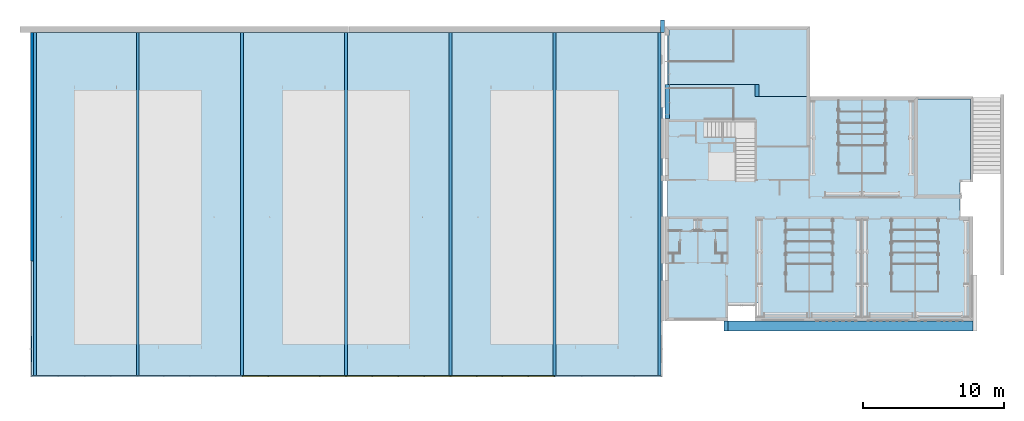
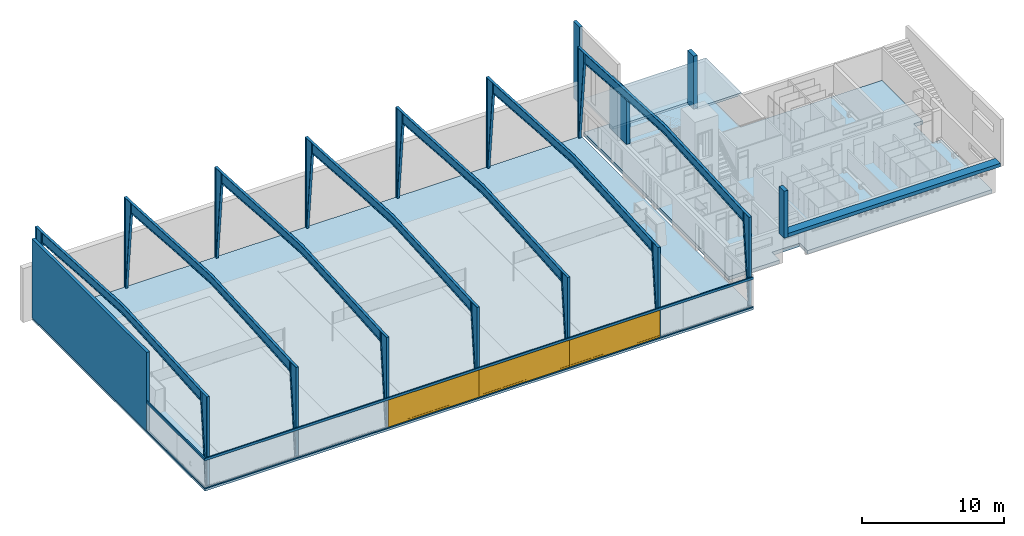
# One storey, part 1 of 45: 8 beams, 4 columns, 3 slabs, 3 walls, 3 windows, 8 openings.
"""IFC2X3 building model written with IfcOpenShell, lengths in metres."""

from ifc_helpers import new_model, entity, si_unit, converted_unit, money_unit, direction, frame, frame_2d, origin_with_axes, origin_2d_with_axis, place, context, subcontext, project, spatial, polyline, rectangle, outline, extrude, faceted_brep, source, transform, mapped, material, layer, layer_set, layer_usage, type_object, element, fill, save


model = new_model("IFC2X3")

# Units and contexts
model_context = context("Model", 3, precision=1e-05, world=origin_with_axes(), true_north=direction((0.0, 1.0)))
body_context = subcontext(model_context, "Body", "Model", "MODEL_VIEW")
ifc_project = project(units=[si_unit("LENGTHUNIT", "METRE"), si_unit("AREAUNIT", "SQUARE_METRE"), si_unit("VOLUMEUNIT", "CUBIC_METRE"), converted_unit("PLANEANGLEUNIT", "DEGREE", entity("IfcPlaneAngleMeasure", 0.0174532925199), si_unit("PLANEANGLEUNIT", "RADIAN"), dimensions=[0, 0, 0, 0, 0, 0, 0]), si_unit("SOLIDANGLEUNIT", "STERADIAN"), money_unit("EUR"), converted_unit("TIMEUNIT", "Year", entity("IfcTimeMeasure", 31556926.0), si_unit("TIMEUNIT", "SECOND"), dimensions=[0, 0, 0, 0, 0, 0, 0]), si_unit("MASSUNIT", "GRAM"), si_unit("THERMODYNAMICTEMPERATUREUNIT", "DEGREE_CELSIUS"), si_unit("LUMINOUSINTENSITYUNIT", "LUMEN")], contexts=[model_context])

# Site, building, storey
site_placement = place(None, origin_with_axes())
site = spatial("IfcSite", under=ifc_project, at=site_placement, Name="Site", CompositionType="ELEMENT")
building_placement = place(site_placement, origin_with_axes())
building = spatial("IfcBuilding", under=site, at=building_placement, Name="Bâtiment", CompositionType="ELEMENT")
storey_placement = place(building_placement, origin_with_axes())
storey = spatial("IfcBuildingStorey", under=building, at=storey_placement, Name="NIVEAU BAS GYMNASE", CompositionType="ELEMENT", Elevation=0.0)

# Columns
ifc_material_1 = material(Name="Hachure solide (2) 2212012751")
column_type_1 = type_object("IfcColumnType", Name="Hachure solide (2) 2212012751 300 x 870", PredefinedType="NOTDEFINED")
column_1_placement = place(storey_placement, frame((51.988457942, 22.193815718, 2.75), z_axis=(0.0, 0.0, 1.0), x_axis=(1.0, 0.0, 0.0)))
element("IfcColumn", 1, at=column_1_placement, inside=storey, type_object=column_type_1, material=ifc_material_1, Name="Pilier-001", ObjectType="Hachure solide (2) 2212012751 300 x 870", context=body_context, shape_type="SweptSolid", body=[
    extrude(rectangle(XDim=0.3, YDim=0.87, at=origin_2d_with_axis()), origin_with_axes(), (0.0, 0.0, 1.0), 4.55),
])
ifc_material_2 = material(Name="Béton 2199952591")
column_type_2 = type_object("IfcColumnType", Name="Béton 2199952591 300 x 700", PredefinedType="NOTDEFINED")
column_2_placement = place(storey_placement, frame((49.788457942, 5.51881571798, 2.45), z_axis=(0.0, 0.0, 1.0), x_axis=(1.0, 0.0, 0.0)))
element("IfcColumn", 2, at=column_2_placement, inside=storey, type_object=column_type_2, material=ifc_material_2, Name="Pilier-001", ObjectType="Béton 2199952591 300 x 700", context=body_context, shape_type="SweptSolid", body=[
    extrude(rectangle(XDim=0.3, YDim=0.7, at=origin_2d_with_axis()), origin_with_axes(), (0.0, 0.0, 1.0), 4.05),
])
ifc_material_3 = material(Name="Hachure solide (2) 1078492233")
column_type_3 = type_object("IfcColumnType", Name="Hachure solide (2) 1078492233 250 x 900", PredefinedType="NOTDEFINED")
column_3_placement = place(storey_placement, frame((45.293457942, 26.7391158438, 2.75), z_axis=(0.0, 0.0, 1.0), x_axis=(1.0, 0.0, 0.0)))
element("IfcColumn", 3, at=column_3_placement, inside=storey, type_object=column_type_3, material=ifc_material_3, Name="Pilier-001", ObjectType="Hachure solide (2) 1078492233 250 x 900", context=body_context, shape_type="SweptSolid", body=[
    extrude(rectangle(XDim=0.25, YDim=0.9, at=origin_2d_with_axis()), origin_with_axes(), (0.0, 0.0, 1.0), 6.63885386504),
])
ifc_material_4 = material(Name="Hachure solide (2) 2212012855")
column_type_4 = type_object("IfcColumnType", Name="Hachure solide (2) 2212012855 300 x 2400", PredefinedType="NOTDEFINED")
column_4_placement = place(storey_placement, frame((45.628457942, 21.428815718, 2.85), z_axis=(0.0, 0.0, 1.0), x_axis=(1.0, 0.0, 0.0)))
element("IfcColumn", 4, at=column_4_placement, inside=storey, type_object=column_type_4, material=ifc_material_4, Name="Pilier-001", ObjectType="Hachure solide (2) 2212012855 300 x 2400", context=body_context, shape_type="SweptSolid", body=[
    extrude(rectangle(XDim=0.3, YDim=2.4, at=origin_2d_with_axis()), origin_with_axes(), (0.0, 0.0, 1.0), 4.45),
])

# Beams
ifc_material_5 = material(Name="Sans Trame")
beam_type_1 = type_object("IfcBeamType", Name="Pente double 10", PredefinedType="NOTDEFINED")
shared_shape_1 = source(origin_with_axes(), body_context, "Body", "Brep", [
    faceted_brep([(24.235, -0.0125, 0.0), (24.235, -0.1, 0.0), (24.235, -0.1, 6.9), (24.235, -0.0125, 6.9), (24.082625, -0.0125, 0.0), (24.082625, -0.1, 0.0), (24.057497, -0.1, 0.0), (24.057497, 0.1, 0.0), (24.082625, 0.1, 0.0), (24.082625, 0.0125, 0.0), (24.235, 0.0125, 0.0), (24.235, 0.1, 0.0), (24.26, 0.1, 0.0), (24.26, -0.1, 0.0), (24.26, -0.1, 6.9), (24.235, 0.0125, 6.9), (23.385127, 0.0125, 6.9), (23.385127, 0.1, 6.9), (23.36, 0.1, 6.9), (23.36, -0.1, 6.9), (23.385127, -0.1, 6.9), (23.385127, -0.0125, 6.9), (24.26, 0.1, 6.9), (24.235, 0.1, 6.9)], [[[0, 1, 2, 3]], [[0, 4, 5, 6, 7, 8, 9, 10, 11, 12, 13, 1]], [[14, 2, 1, 13]], [[15, 16, 17, 18, 19, 20, 21, 3, 2, 14, 22, 23]], [[3, 21, 4, 0]], [[21, 20, 5, 4]], [[5, 20, 19, 6]], [[6, 19, 18, 7]], [[18, 17, 8, 7]], [[9, 8, 17, 16]], [[10, 9, 16, 15]], [[15, 23, 11, 10]], [[11, 23, 22, 12]], [[14, 13, 12, 22]]]),
    faceted_brep([(24.235, 0.0125, 6.9), (24.235, 0.0125, 7.760227), (24.235, 0.1, 7.760227), (24.235, 0.1, 6.9), (23.385, 0.0125, 7.774574), (23.385, 0.0125, 6.9), (23.385, 0.1, 7.774574), (23.385, 0.1, 6.9), (23.36, 0.1, 6.9), (23.36, 0.1, 7.8), (24.26, 0.1, 7.784809), (24.26, 0.1, 6.9), (24.26, -0.1, 6.9), (24.235, -0.1, 6.9), (24.235, -0.0125, 6.9), (23.385, -0.0125, 6.9), (23.385, -0.1, 6.9), (23.36, -0.1, 6.9), (23.36, -0.1, 7.8), (24.26, -0.1, 7.784809), (23.385, -0.1, 7.774574), (24.235, -0.1, 7.760227), (24.235, -0.0125, 7.760227), (23.385, -0.0125, 7.774574)], [[[0, 1, 2, 3]], [[4, 1, 0, 5]], [[1, 4, 6, 2]], [[6, 7, 8, 9, 10, 11, 3, 2]], [[0, 3, 11, 12, 13, 14, 15, 16, 17, 8, 7, 5]], [[4, 5, 7, 6]], [[18, 9, 8, 17]], [[9, 18, 19, 10]], [[12, 11, 10, 19]], [[19, 18, 17, 16, 20, 21, 13, 12]], [[22, 14, 13, 21]], [[14, 22, 23, 15]], [[15, 23, 20, 16]], [[23, 22, 21, 20]]]),
    faceted_brep([(0.025, -0.0125, 0.0), (0.025, -0.0125, 6.9), (0.025, -0.1, 6.9), (0.025, -0.1, 0.0), (0.177375, -0.0125, 0.0), (0.874873, -0.0125, 6.9), (0.025, 0.0125, 6.9), (0.025, 0.1, 6.9), (0.0, 0.1, 6.9), (0.0, -0.1, 6.9), (0.874873, -0.1, 6.9), (0.9, -0.1, 6.9), (0.9, 0.1, 6.9), (0.874873, 0.1, 6.9), (0.874873, 0.0125, 6.9), (0.0, -0.1, 0.0), (0.0, 0.1, 0.0), (0.025, 0.1, 0.0), (0.025, 0.0125, 0.0), (0.177375, 0.0125, 0.0), (0.177375, 0.1, 0.0), (0.202503, 0.1, 0.0), (0.202503, -0.1, 0.0), (0.177375, -0.1, 0.0)], [[[0, 1, 2, 3]], [[1, 0, 4, 5]], [[6, 7, 8, 9, 2, 1, 5, 10, 11, 12, 13, 14]], [[9, 15, 3, 2]], [[0, 3, 15, 16, 17, 18, 19, 20, 21, 22, 23, 4]], [[5, 4, 23, 10]], [[6, 18, 17, 7]], [[17, 16, 8, 7]], [[9, 8, 16, 15]], [[23, 22, 11, 10]], [[22, 21, 12, 11]], [[12, 21, 20, 13]], [[19, 14, 13, 20]], [[18, 6, 14, 19]]]),
    faceted_brep([(0.025, 0.0125, 6.9), (0.025, 0.1, 6.9), (0.025, 0.1, 7.760227), (0.025, 0.0125, 7.760227), (0.875, 0.0125, 6.9), (0.875, 0.1, 6.9), (0.9, 0.1, 6.9), (0.9, -0.1, 6.9), (0.875, -0.1, 6.9), (0.875, -0.0125, 6.9), (0.025, -0.0125, 6.9), (0.025, -0.1, 6.9), (0.0, -0.1, 6.9), (0.0, 0.1, 6.9), (0.875, 0.1, 7.774574), (0.0, 0.1, 7.784809), (0.9, 0.1, 7.8), (0.875, 0.0125, 7.774574), (0.9, -0.1, 7.8), (0.0, -0.1, 7.784809), (0.025, -0.1, 7.760227), (0.875, -0.1, 7.774574), (0.875, -0.0125, 7.774574), (0.025, -0.0125, 7.760227)], [[[0, 1, 2, 3]], [[0, 4, 5, 6, 7, 8, 9, 10, 11, 12, 13, 1]], [[14, 2, 1, 13, 15, 16, 6, 5]], [[3, 2, 14, 17]], [[17, 4, 0, 3]], [[17, 14, 5, 4]], [[18, 7, 6, 16]], [[19, 12, 11, 20, 21, 8, 7, 18]], [[9, 8, 21, 22]], [[10, 9, 22, 23]], [[23, 20, 11, 10]], [[12, 19, 15, 13]], [[16, 15, 19, 18]], [[22, 21, 20, 23]]]),
    faceted_brep([(23.36, -0.0125, 7.774967), (23.36, -0.1, 7.774967), (17.505163, -0.1, 8.077692), (17.505163, -0.0125, 8.077692), (23.36, -0.0125, 6.925074), (23.36, -0.1, 6.925074), (23.36, -0.1, 6.9), (23.36, 0.1, 6.9), (23.36, 0.1, 6.925074), (23.36, 0.0125, 6.925074), (23.36, 0.0125, 7.774967), (23.36, 0.1, 7.774967), (23.36, 0.1, 7.8), (23.36, -0.1, 7.8), (17.506454, -0.1, 8.102659), (17.505163, 0.0125, 8.077692), (17.467727, 0.0125, 7.353659), (17.467727, -0.0125, 7.353659), (17.506454, 0.1, 8.102659), (17.505163, 0.1, 8.077692), (17.469451, -0.0125, 7.378601), (17.469451, -0.1, 7.378601), (17.467727, -0.1, 7.353659), (17.467727, 0.1, 7.353659), (17.469451, 0.1, 7.378601), (17.469451, 0.0125, 7.378601)], [[[0, 1, 2, 3]], [[0, 4, 5, 6, 7, 8, 9, 10, 11, 12, 13, 1]], [[14, 2, 1, 13]], [[15, 16, 17, 3, 2, 14, 18, 19]], [[3, 17, 20, 4, 0]], [[20, 21, 5, 4]], [[5, 21, 22, 6]], [[16, 23, 7, 6, 22, 17]], [[23, 24, 8, 7]], [[9, 8, 24, 25]], [[10, 9, 25, 16, 15]], [[15, 19, 11, 10]], [[11, 19, 18, 12]], [[14, 13, 12, 18]], [[17, 22, 21, 20]], [[25, 24, 23, 16]]]),
    faceted_brep([(17.505163, -0.0125, 8.077692), (17.505163, -0.1, 8.077692), (12.13, -0.1, 8.355616), (12.13, -0.0125, 8.355616), (17.469018, -0.0125, 7.378627), (17.469018, 0.0125, 7.378627), (17.505163, 0.0125, 8.077692), (17.505163, 0.1, 8.077692), (17.506454, 0.1, 8.102659), (17.506454, -0.1, 8.102659), (12.13, -0.1, 8.38065), (12.13, 0.0125, 8.355616), (12.13, 0.0125, 7.705697), (12.13, 0.1, 7.705697), (12.13, 0.1, 7.68065), (12.13, -0.1, 7.68065), (12.13, -0.1, 7.705697), (12.13, -0.0125, 7.705697), (12.13, 0.1, 8.38065), (12.13, 0.1, 8.355616), (17.469451, -0.1, 7.378601), (17.469451, 0.1, 7.378601), (17.467727, 0.1, 7.353659), (17.467727, -0.1, 7.353659)], [[[0, 1, 2, 3]], [[0, 4, 5, 6, 7, 8, 9, 1]], [[10, 2, 1, 9]], [[11, 12, 13, 14, 15, 16, 17, 3, 2, 10, 18, 19]], [[3, 17, 4, 0]], [[4, 17, 16, 20, 21, 13, 12, 5]], [[6, 5, 12, 11]], [[11, 19, 7, 6]], [[7, 19, 18, 8]], [[10, 9, 8, 18]], [[14, 13, 21, 22]], [[23, 15, 14, 22]], [[20, 16, 15, 23]], [[20, 23, 22, 21]]]),
    faceted_brep([(0.9, -0.0125, 7.774967), (6.754837, -0.0125, 8.077692), (6.754837, -0.1, 8.077692), (0.9, -0.1, 7.774967), (0.9, -0.0125, 6.925074), (6.790549, -0.0125, 7.378601), (6.792273, -0.0125, 7.353659), (6.754837, 0.0125, 8.077692), (6.754837, 0.1, 8.077692), (6.753546, 0.1, 8.102659), (6.753546, -0.1, 8.102659), (6.792273, 0.0125, 7.353659), (0.9, -0.1, 7.8), (0.9, 0.1, 7.8), (0.9, 0.1, 7.774967), (0.9, 0.0125, 7.774967), (0.9, 0.0125, 6.925074), (0.9, 0.1, 6.925074), (0.9, 0.1, 6.9), (0.9, -0.1, 6.9), (0.9, -0.1, 6.925074), (6.790549, -0.1, 7.378601), (6.792273, -0.1, 7.353659), (6.792273, 0.1, 7.353659), (6.790549, 0.0125, 7.378601), (6.790549, 0.1, 7.378601)], [[[0, 1, 2, 3]], [[1, 0, 4, 5, 6]], [[7, 8, 9, 10, 2, 1, 6, 11]], [[10, 12, 3, 2]], [[0, 3, 12, 13, 14, 15, 16, 17, 18, 19, 20, 4]], [[5, 4, 20, 21]], [[6, 5, 21, 22]], [[7, 15, 14, 8]], [[14, 13, 9, 8]], [[10, 9, 13, 12]], [[11, 6, 22, 19, 18, 23]], [[15, 7, 11, 24, 16]], [[16, 24, 25, 17]], [[23, 18, 17, 25]], [[20, 19, 22, 21]], [[24, 11, 23, 25]]]),
    faceted_brep([(6.754837, -0.0125, 8.077692), (12.13, -0.0125, 8.355616), (12.13, -0.1, 8.355616), (6.754837, -0.1, 8.077692), (6.790982, -0.0125, 7.378627), (12.13, -0.0125, 7.705697), (12.13, 0.0125, 8.355616), (12.13, 0.1, 8.355616), (12.13, 0.1, 8.38065), (12.13, -0.1, 8.38065), (12.13, -0.1, 7.705697), (12.13, -0.1, 7.68065), (12.13, 0.1, 7.68065), (12.13, 0.1, 7.705697), (12.13, 0.0125, 7.705697), (6.753546, -0.1, 8.102659), (6.753546, 0.1, 8.102659), (6.754837, 0.1, 8.077692), (6.754837, 0.0125, 8.077692), (6.790982, 0.0125, 7.378627), (6.790549, 0.1, 7.378601), (6.790549, -0.1, 7.378601), (6.792273, -0.1, 7.353659), (6.792273, 0.1, 7.353659)], [[[0, 1, 2, 3]], [[1, 0, 4, 5]], [[6, 7, 8, 9, 2, 1, 5, 10, 11, 12, 13, 14]], [[9, 15, 3, 2]], [[0, 3, 15, 16, 17, 18, 19, 4]], [[4, 19, 14, 13, 20, 21, 10, 5]], [[6, 18, 17, 7]], [[17, 16, 8, 7]], [[9, 8, 16, 15]], [[21, 22, 11, 10]], [[22, 23, 12, 11]], [[12, 23, 20, 13]], [[18, 6, 14, 19]], [[21, 20, 23, 22]]]),
])
for number, where, z_axis, x_axis, name in (
    (5, (22.8986185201, 2.02911584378, 0.0), (0.0, 0.0, 1.0), (0.0, 1.0, 0.0), "MOB-0004"),
    (6, (15.5219518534, 2.02911584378, 0.0), (0.0, 0.0, 1.0), (0.0, 1.0, 0.0), "MOB-0004"),
    (7, (8.14528518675, 2.02911584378, 0.0), (0.0, 0.0, 1.0), (0.0, 1.0, 0.0), "MOB-0004"),
    (8, (30.2752851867, 2.02911584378, 0.0), (0.0, 0.0, 1.0), (0.0, 1.0, 0.0), "MOB-0004"),
    (9, (37.6519518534, 2.02911584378, 0.0), (0.0, 0.0, 1.0), (0.0, 1.0, 0.0), "MOB-0004"),
    (10, (45.078457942, 2.02911584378, 0.0), (0.0, 0.0, 1.0), (0.0, 1.0, 0.0), "MOB-0004"),
    (11, (0.878618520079, 2.02911584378, 0.0), (0.0, 0.0, 1.0), (0.0, 1.0, 0.0), "MOB-0004"),
):
    element("IfcBeam", number, at=place(storey_placement, frame(where, z_axis=z_axis, x_axis=x_axis)), inside=storey, type_object=beam_type_1, material=ifc_material_5, Name=name, ObjectType="Pente double 10", context=body_context, shape_type="MappedRepresentation", body=[
        mapped(shared_shape_1, transform((0.0, 0.0, 0.0))),
    ])
ifc_material_6 = material(Name="Hachure solide 2670559909")
beam_type_2 = type_object("IfcBeamType", Name="Hachure solide 2670559909 700 x 300", PredefinedType="NOTDEFINED")
beam_placement = place(storey_placement, frame((67.258457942, 5.51881571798, 2.75), z_axis=(0.0, 0.0, 1.0), x_axis=(0.0, 1.0, 0.0)))
element("IfcBeam", 12, at=beam_placement, inside=storey, type_object=beam_type_2, material=ifc_material_6, Name="Pou-002", ObjectType="Hachure solide 2670559909 700 x 300", context=body_context, shape_type="SweptSolid", body=[
    extrude(rectangle(XDim=0.3, YDim=0.7, at=frame_2d((-0.15, 0.0), x_axis=(1.0, 0.0))), frame((0.0, 0.0, 0.0), z_axis=(0.0, 1.0, 0.0), x_axis=(0.0, 0.0, 1.0)), (0.0, 0.0, 1.0), 17.32),
])

# Slabs
ifc_material_7 = material(Name="Hachure solide* 2593434267")
ifc_layer_1 = layer(ifc_material_7, 0.2, ventilated="UNKNOWN")
ifc_layer_set_1 = layer_set([ifc_layer_1], Name="Hachure solide* 2593434267 0.2")
ifc_layer_usage_1 = layer_usage(ifc_layer_set_1, "AXIS3", "NEGATIVE", 0.2)
slab_type_1 = type_object("IfcSlabType", Name="Hachure solide* 2593434267 200", PredefinedType="FLOOR")
slab_1_placement = place(storey_placement, frame((45.758457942, 26.7391158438, 2.8), z_axis=(0.0, 0.0, 1.0), x_axis=(1.0, 0.0, 0.0)))
element("IfcSlab", 13, at=slab_1_placement, inside=storey, type_object=slab_type_1, material=ifc_layer_usage_1, Name="Dalle-002", PredefinedType="FLOOR", context=body_context, shape_type="SweptSolid", body=[
    extrude(outline(polyline([(0.0, 0.0), (0.0, -4.1103001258), (6.38, -4.1103001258), (6.38, -4.9803001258), (9.975, -4.9803001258), (9.975, 0.0), (0.0, 0.0)])), frame((0.0, 0.0, -0.2), z_axis=(0.0, 0.0, 1.0), x_axis=(1.0, 0.0, 0.0)), (0.0, 0.0, 1.0), 0.2),
])
ifc_layer_usage_2 = layer_usage(ifc_layer_set_1, "AXIS3", "NEGATIVE", 0.2)
slab_2_placement = place(storey_placement, frame((0.558457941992, 26.2891158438, 0.0), z_axis=(0.0, 0.0, 1.0), x_axis=(1.0, 0.0, 0.0)))
element("IfcSlab", 14, at=slab_2_placement, inside=storey, type_object=slab_type_1, material=ifc_layer_usage_2, Name="Dalle-001", PredefinedType="FLOOR", context=body_context, shape_type="SweptSolid", body=[
    extrude(outline(polyline([(0.0, 0.0), (0.0, -24.36), (44.72, -24.36), (44.72, 0.0), (0.0, 0.0)])), frame((0.0, 0.0, -0.2), z_axis=(0.0, 0.0, 1.0), x_axis=(1.0, 0.0, 0.0)), (0.0, 0.0, 1.0), 0.2),
])
ifc_layer_2 = layer(ifc_material_7, 0.3, ventilated="UNKNOWN")
ifc_layer_set_2 = layer_set([ifc_layer_2], Name="Hachure solide* 2593434267 0.3")
ifc_layer_usage_3 = layer_usage(ifc_layer_set_2, "AXIS3", "NEGATIVE", 0.3)
slab_type_2 = type_object("IfcSlabType", Name="Hachure solide* 2593434267 300", PredefinedType="FLOOR")
slab_3_placement = place(storey_placement, frame((45.6608632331, 26.5791158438, 0.0), z_axis=(0.0, 0.0, 1.0), x_axis=(1.0, 0.0, 0.0)))
element("IfcSlab", 15, at=slab_3_placement, inside=storey, type_object=slab_type_2, material=ifc_layer_usage_3, Name="Dalle-002", PredefinedType="FLOOR", context=body_context, shape_type="SweptSolid", body=[
    extrude(outline(polyline([(0.0, 0.0), (0.0, -20.5278948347), (4.11759470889, -20.5278948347), (4.11759470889, -19.4378948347), (6.38240529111, -19.4378948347), (6.38240529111, -20.5278948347), (21.4375947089, -20.5278948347), (21.4375947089, -13.4052123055), (20.6896411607, -13.4052123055), (20.6896411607, -10.7553879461), (21.4375947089, -10.7553879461), (21.4375947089, -4.9803001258), (9.9125947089, -4.9803001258), (9.9125947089, 0.0), (0.0, 0.0)])), frame((0.0, 0.0, -0.3), z_axis=(0.0, 0.0, 1.0), x_axis=(1.0, 0.0, 0.0)), (0.0, 0.0, 1.0), 0.3),
])

# Wall, openings, windows
ifc_material_8 = material(Name="Acier 2556372607")
ifc_layer_3 = layer(ifc_material_8, 0.1, ventilated="UNKNOWN")
ifc_layer_set_3 = layer_set([ifc_layer_3], Name="Acier 2556372607 0.1")
ifc_layer_usage_4 = layer_usage(ifc_layer_set_3, "AXIS2", "POSITIVE", 0.0)
wall_type_1 = type_object("IfcWallType", Name="Acier 2556372607 100", PredefinedType="NOTDEFINED")
wall_1_placement = place(storey_placement, frame((0.538618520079, 1.92911584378, 0.0), z_axis=(0.0, 0.0, 1.0), x_axis=(1.0, 0.0, 0.0)))
wall_1 = element("IfcWallStandardCase", 16, at=wall_1_placement, inside=storey, type_object=wall_type_1, material=ifc_layer_usage_4, Name="Mur-002", context=body_context, shape_type="SweptSolid", body=[
    extrude(outline(polyline([(0.0, 0.0), (44.7398394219, 0.0), (44.6398394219, 0.1), (0.1, 0.1), (0.0, 0.0)])), origin_with_axes(), (0.0, 0.0, 1.0), 2.62),
])
opening_1_placement = place(wall_1_placement, frame((18.6716666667, 0.0, 0.1), z_axis=(0.0, 0.0, 1.0), x_axis=(1.0, 0.0, 0.0)))
opening_1 = element("IfcOpeningElement", 17, at=opening_1_placement, cuts=wall_1, Name="Fen-022", context=body_context, shape_type="SweptSolid", body=[
    extrude(outline(polyline([(3.688333, -2.32), (3.688333, 0.0), (-3.688333, 0.0), (-3.688333, -2.32), (3.688333, -2.32)])), frame((0.0, 0.0, 0.0), z_axis=(0.0, -1.0, 0.0), x_axis=(-1.0, 0.0, 0.0)), (0.0, 0.0, 1.0), 0.1),
    extrude(outline(polyline([(3.688333, 0.0), (3.688333, 2.32), (-3.688333, 2.32), (-3.688333, 0.0), (3.688333, 0.0)])), frame((0.0, 0.0, 0.0), z_axis=(0.0, 1.0, 0.0), x_axis=(-1.0, 0.0, 0.0)), (0.0, 0.0, 1.0), 0.1),
])
opening_2_placement = place(wall_1_placement, frame((26.0483333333, 0.0, 0.1), z_axis=(0.0, 0.0, 1.0), x_axis=(1.0, 0.0, 0.0)))
opening_2 = element("IfcOpeningElement", 18, at=opening_2_placement, cuts=wall_1, Name="Fen-022", context=body_context, shape_type="SweptSolid", body=[
    extrude(outline(polyline([(3.688333, -2.32), (3.688333, 0.0), (-3.688333, 0.0), (-3.688333, -2.32), (3.688333, -2.32)])), frame((0.0, 0.0, 0.0), z_axis=(0.0, -1.0, 0.0), x_axis=(-1.0, 0.0, 0.0)), (0.0, 0.0, 1.0), 0.1),
    extrude(outline(polyline([(3.688333, 0.0), (3.688333, 2.32), (-3.688333, 2.32), (-3.688333, 0.0), (3.688333, 0.0)])), frame((0.0, 0.0, 0.0), z_axis=(0.0, 1.0, 0.0), x_axis=(-1.0, 0.0, 0.0)), (0.0, 0.0, 1.0), 0.1),
])
opening_3_placement = place(wall_1_placement, frame((33.425, 0.0, 0.1), z_axis=(0.0, 0.0, 1.0), x_axis=(1.0, 0.0, 0.0)))
opening_3 = element("IfcOpeningElement", 19, at=opening_3_placement, cuts=wall_1, Name="Fen-023", context=body_context, shape_type="SweptSolid", body=[
    extrude(outline(polyline([(3.688333, -2.32), (3.688333, 0.0), (-3.688333, 0.0), (-3.688333, -2.32), (3.688333, -2.32)])), frame((0.0, 0.0, 0.0), z_axis=(0.0, -1.0, 0.0), x_axis=(-1.0, 0.0, 0.0)), (0.0, 0.0, 1.0), 0.1),
    extrude(outline(polyline([(3.688333, 0.0), (3.688333, 2.32), (-3.688333, 2.32), (-3.688333, 0.0), (3.688333, 0.0)])), frame((0.0, 0.0, 0.0), z_axis=(0.0, 1.0, 0.0), x_axis=(-1.0, 0.0, 0.0)), (0.0, 0.0, 1.0), 0.1),
])
opening_4_placement = place(wall_1_placement, frame((11.295, 0.0, 0.1), z_axis=(0.0, 0.0, 1.0), x_axis=(1.0, 0.0, 0.0)))
element("IfcOpeningElement", 20, at=opening_4_placement, cuts=wall_1, Name="Fen-022", context=body_context, shape_type="SweptSolid", body=[
    extrude(outline(polyline([(3.688333, -2.32), (3.688333, 0.0), (-3.688333, 0.0), (-3.688333, -2.32), (3.688333, -2.32)])), frame((0.0, 0.0, 0.0), z_axis=(0.0, -1.0, 0.0), x_axis=(-1.0, 0.0, 0.0)), (0.0, 0.0, 1.0), 0.1),
    extrude(outline(polyline([(3.688333, 0.0), (3.688333, 2.32), (-3.688333, 2.32), (-3.688333, 0.0), (3.688333, 0.0)])), frame((0.0, 0.0, 0.0), z_axis=(0.0, 1.0, 0.0), x_axis=(-1.0, 0.0, 0.0)), (0.0, 0.0, 1.0), 0.1),
])
opening_5_placement = place(wall_1_placement, frame((3.80333333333, 0.0, 0.1), z_axis=(0.0, 0.0, 1.0), x_axis=(1.0, 0.0, 0.0)))
element("IfcOpeningElement", 21, at=opening_5_placement, cuts=wall_1, Name="Fen-023", context=body_context, shape_type="SweptSolid", body=[
    extrude(outline(polyline([(3.803333, -2.32), (3.803333, 0.0), (-3.803333, 0.0), (-3.803333, -2.32), (3.803333, -2.32)])), frame((0.0, 0.0, 0.0), z_axis=(0.0, -1.0, 0.0), x_axis=(-1.0, 0.0, 0.0)), (0.0, 0.0, 1.0), 0.1),
    extrude(outline(polyline([(3.803333, 0.0), (3.803333, 2.32), (-3.803333, 2.32), (-3.803333, 0.0), (3.803333, 0.0)])), frame((0.0, 0.0, 0.0), z_axis=(0.0, 1.0, 0.0), x_axis=(-1.0, 0.0, 0.0)), (0.0, 0.0, 1.0), 0.1),
])
opening_6_placement = place(wall_1_placement, frame((40.9365060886, 0.0, 0.1), z_axis=(0.0, 0.0, 1.0), x_axis=(1.0, 0.0, 0.0)))
element("IfcOpeningElement", 22, at=opening_6_placement, cuts=wall_1, Name="Fen-025", context=body_context, shape_type="SweptSolid", body=[
    extrude(outline(polyline([(3.803333, -2.32), (3.803333, 0.0), (-3.803333, 0.0), (-3.803333, -2.32), (3.803333, -2.32)])), frame((0.0, 0.0, 0.0), z_axis=(0.0, -1.0, 0.0), x_axis=(-1.0, 0.0, 0.0)), (0.0, 0.0, 1.0), 0.1),
    extrude(outline(polyline([(3.803333, 0.0), (3.803333, 2.32), (-3.803333, 2.32), (-3.803333, 0.0), (3.803333, 0.0)])), frame((0.0, 0.0, 0.0), z_axis=(0.0, 1.0, 0.0), x_axis=(-1.0, 0.0, 0.0)), (0.0, 0.0, 1.0), 0.1),
])
window_style = type_object("IfcWindowStyle", Name="F Devanture 3 10", ConstructionType="NOTDEFINED", OperationType="USERDEFINED", ParameterTakesPrecedence=False, Sizeable=False)
shared_shape_2 = source(origin_with_axes(), body_context, "Body", "Brep", [
    faceted_brep([(-3.688333, 0.0, 2.28), (-3.688333, 0.0, 0.15), (-3.688333, -0.08, 0.15), (-3.688333, -0.08, 2.28), (-3.648333, 0.0, 2.28), (-3.648333, 0.0, 0.15), (-3.648333, -0.08, 0.15), (-3.648333, -0.08, 2.28)], [[[0, 1, 2, 3]], [[0, 4, 5, 1]], [[1, 5, 6, 2]], [[3, 2, 6, 7]], [[4, 0, 3, 7]], [[5, 4, 7, 6]]]),
    faceted_brep([(3.688333, 0.0, 0.15), (3.688333, 0.0, 2.28), (3.688333, -0.08, 2.28), (3.688333, -0.08, 0.15), (3.648333, 0.0, 0.15), (3.648333, 0.0, 2.28), (3.648333, -0.08, 2.28), (3.648333, -0.08, 0.15)], [[[0, 1, 2, 3]], [[0, 4, 5, 1]], [[1, 5, 6, 2]], [[3, 2, 6, 7]], [[4, 0, 3, 7]], [[5, 4, 7, 6]]]),
    faceted_brep([(3.688333, 0.0, 2.32), (-3.688333, 0.0, 2.32), (-3.688333, -0.08, 2.32), (3.688333, -0.08, 2.32), (3.688333, 0.0, 2.28), (3.648333, 0.0, 2.28), (-3.648333, 0.0, 2.28), (-3.688333, 0.0, 2.28), (-3.688333, -0.08, 2.28), (-3.648333, -0.08, 2.28), (3.648333, -0.08, 2.28), (3.688333, -0.08, 2.28)], [[[0, 1, 2, 3]], [[0, 4, 5, 6, 7, 1]], [[1, 7, 8, 2]], [[3, 2, 8, 9, 10, 11]], [[4, 0, 3, 11]], [[5, 4, 11, 10]], [[6, 5, 10, 9]], [[7, 6, 9, 8]]]),
    faceted_brep([(3.688333, 0.0, 0.15), (3.648333, 0.0, 0.15), (3.648333, -0.08, 0.15), (3.688333, -0.08, 0.15), (3.688333, 0.0, 0.0), (-3.688333, 0.0, 0.0), (-3.688333, 0.0, 0.15), (-3.648333, 0.0, 0.15), (-3.648333, -0.08, 0.15), (-3.688333, -0.08, 0.15), (-3.688333, -0.08, 0.0), (3.688333, -0.08, 0.0)], [[[0, 1, 2, 3]], [[0, 4, 5, 6, 7, 1]], [[1, 7, 8, 2]], [[3, 2, 8, 9, 10, 11]], [[4, 0, 3, 11]], [[5, 4, 11, 10]], [[6, 5, 10, 9]], [[7, 6, 9, 8]]]),
    faceted_brep([(1.816667, -0.05, 0.15), (1.816667, 0.0, 0.15), (1.846667, 0.0, 0.15), (1.846667, -0.05, 0.15), (1.816667, -0.05, 2.28), (1.816667, 0.0, 2.28), (1.846667, 0.0, 2.28), (1.846667, -0.05, 2.28)], [[[0, 1, 2, 3]], [[4, 5, 1, 0]], [[2, 1, 5, 6]], [[3, 2, 6, 7]], [[4, 0, 3, 7]], [[7, 6, 5, 4]]]),
    faceted_brep([(-1.846667, -0.05, 0.15), (-1.846667, 0.0, 0.15), (-1.816667, 0.0, 0.15), (-1.816667, -0.05, 0.15), (-1.846667, -0.05, 2.28), (-1.846667, 0.0, 2.28), (-1.816667, 0.0, 2.28), (-1.816667, -0.05, 2.28)], [[[0, 1, 2, 3]], [[4, 5, 1, 0]], [[2, 1, 5, 6]], [[3, 2, 6, 7]], [[4, 0, 3, 7]], [[7, 6, 5, 4]]]),
    faceted_brep([(-0.015, -0.05, 0.15), (-0.015, 0.0, 0.15), (0.015, 0.0, 0.15), (0.015, -0.05, 0.15), (-0.015, -0.05, 2.28), (-0.015, 0.0, 2.28), (0.015, 0.0, 2.28), (0.015, -0.05, 2.28)], [[[0, 1, 2, 3]], [[4, 5, 1, 0]], [[2, 1, 5, 6]], [[3, 2, 6, 7]], [[4, 0, 3, 7]], [[7, 6, 5, 4]]]),
    faceted_brep([(-3.648333, -0.01, 0.15), (-1.846667, -0.01, 0.15), (-1.846667, -0.02, 0.15), (-3.648333, -0.02, 0.15), (-3.648333, -0.01, 2.28), (-1.846667, -0.01, 2.28), (-1.846667, -0.02, 2.28), (-3.648333, -0.02, 2.28)], [[[0, 1, 2, 3]], [[0, 4, 5, 1]], [[1, 5, 6, 2]], [[3, 2, 6, 7]], [[4, 0, 3, 7]], [[5, 4, 7, 6]]]),
    faceted_brep([(-1.816667, -0.01, 0.15), (-0.015, -0.01, 0.15), (-0.015, -0.02, 0.15), (-1.816667, -0.02, 0.15), (-1.816667, -0.01, 2.28), (-0.015, -0.01, 2.28), (-0.015, -0.02, 2.28), (-1.816667, -0.02, 2.28)], [[[0, 1, 2, 3]], [[0, 4, 5, 1]], [[1, 5, 6, 2]], [[3, 2, 6, 7]], [[4, 0, 3, 7]], [[5, 4, 7, 6]]]),
    faceted_brep([(0.015, -0.01, 0.15), (1.816667, -0.01, 0.15), (1.816667, -0.02, 0.15), (0.015, -0.02, 0.15), (0.015, -0.01, 2.28), (1.816667, -0.01, 2.28), (1.816667, -0.02, 2.28), (0.015, -0.02, 2.28)], [[[0, 1, 2, 3]], [[0, 4, 5, 1]], [[1, 5, 6, 2]], [[3, 2, 6, 7]], [[4, 0, 3, 7]], [[5, 4, 7, 6]]]),
    faceted_brep([(1.846667, -0.01, 0.15), (3.648333, -0.01, 0.15), (3.648333, -0.02, 0.15), (1.846667, -0.02, 0.15), (1.846667, -0.01, 2.28), (3.648333, -0.01, 2.28), (3.648333, -0.02, 2.28), (1.846667, -0.02, 2.28)], [[[0, 1, 2, 3]], [[0, 4, 5, 1]], [[1, 5, 6, 2]], [[3, 2, 6, 7]], [[4, 0, 3, 7]], [[5, 4, 7, 6]]]),
])
window_1_placement = place(opening_1_placement, frame((3.68833333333, 0.0, 0.0), z_axis=(0.0, 0.0, 1.0), x_axis=(-1.0, 0.0, 0.0)))
window_1 = element("IfcWindow", 23, at=window_1_placement, inside=storey, type_object=window_style, material=ifc_material_5, Name="Fen-022", OverallHeight=2.32, OverallWidth=7.37667, context=body_context, shape_type="MappedRepresentation", body=[
    mapped(shared_shape_2, transform((3.68833333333, 0.0, 0.0))),
])
fill(opening_1, window_1)
window_2_placement = place(opening_2_placement, frame((3.68833333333, 0.0, 0.0), z_axis=(0.0, 0.0, 1.0), x_axis=(-1.0, 0.0, 0.0)))
window_2 = element("IfcWindow", 24, at=window_2_placement, inside=storey, type_object=window_style, material=ifc_material_5, Name="Fen-022", OverallHeight=2.32, OverallWidth=7.37667, context=body_context, shape_type="MappedRepresentation", body=[
    mapped(shared_shape_2, transform((3.68833333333, 0.0, 0.0))),
])
fill(opening_2, window_2)
window_3_placement = place(opening_3_placement, frame((3.68833333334, 0.0, 0.0), z_axis=(0.0, 0.0, 1.0), x_axis=(-1.0, 0.0, 0.0)))
window_3 = element("IfcWindow", 25, at=window_3_placement, inside=storey, type_object=window_style, material=ifc_material_5, Name="Fen-023", OverallHeight=2.32, OverallWidth=7.37667, context=body_context, shape_type="MappedRepresentation", body=[
    mapped(shared_shape_2, transform((3.68833333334, 0.0, 0.0))),
])
fill(opening_3, window_3)

# Wall, openings
ifc_layer_usage_5 = layer_usage(ifc_layer_set_3, "AXIS2", "POSITIVE", -0.1)
wall_2_placement = place(storey_placement, frame((0.538618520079, 1.92911584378, 0.0), z_axis=(0.0, 0.0, 1.0), x_axis=(0.0, 1.0, 0.0)))
wall_2 = element("IfcWallStandardCase", 26, at=wall_2_placement, inside=storey, type_object=wall_type_1, material=ifc_layer_usage_5, Name="Mur-002", context=body_context, shape_type="SweptSolid", body=[
    extrude(outline(polyline([(0.1, -0.1), (8.19666666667, -0.1), (8.19666666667, 0.0), (0.0, 0.0), (0.1, -0.1)])), origin_with_axes(), (0.0, 0.0, 1.0), 2.62),
])
opening_7_placement = place(wall_2_placement, frame((6.06818327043, 0.0, 0.1), z_axis=(0.0, 0.0, 1.0), x_axis=(1.0, 0.0, 0.0)))
element("IfcOpeningElement", 27, at=opening_7_placement, cuts=wall_2, Name="Fen-023", context=body_context, shape_type="SweptSolid", body=[
    extrude(outline(polyline([(-2.128483, 0.0), (-2.128483, -2.32), (2.128483, -2.32), (2.128483, 0.0), (-2.128483, 0.0)])), frame((0.0, 0.0, 0.0), z_axis=(0.0, 1.0, 0.0), x_axis=(1.0, 0.0, 0.0)), (0.0, 0.0, 1.0), 0.1),
    extrude(outline(polyline([(-2.128483, 2.32), (-2.128483, 0.0), (2.128483, 0.0), (2.128483, 2.32), (-2.128483, 2.32)])), frame((0.0, 0.0, 0.0), z_axis=(0.0, -1.0, 0.0), x_axis=(1.0, 0.0, 0.0)), (0.0, 0.0, 1.0), 0.1),
])
opening_8_placement = place(wall_2_placement, frame((1.9698499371, 0.0, 0.1), z_axis=(0.0, 0.0, 1.0), x_axis=(1.0, 0.0, 0.0)))
element("IfcOpeningElement", 28, at=opening_8_placement, cuts=wall_2, Name="Por-022", context=body_context, shape_type="SweptSolid", body=[
    extrude(outline(polyline([(-1.96985, 0.0), (-1.96985, -2.32), (1.96985, -2.32), (1.96985, 0.0), (-1.96985, 0.0)])), frame((0.0, 0.0, 0.0), z_axis=(0.0, 1.0, 0.0), x_axis=(1.0, 0.0, 0.0)), (0.0, 0.0, 1.0), 0.1),
    extrude(outline(polyline([(-1.96985, 2.32), (-1.96985, 0.0), (1.96985, 0.0), (1.96985, 2.32), (-1.96985, 2.32)])), frame((0.0, 0.0, 0.0), z_axis=(0.0, -1.0, 0.0), x_axis=(1.0, 0.0, 0.0)), (0.0, 0.0, 1.0), 0.1),
])

# Wall
ifc_material_9 = material(Name="Hachure solide* 3992800808")
ifc_layer_4 = layer(ifc_material_9, 0.24, ventilated="UNKNOWN")
ifc_layer_set_4 = layer_set([ifc_layer_4], Name="Hachure solide* 3992800808 0.24")
ifc_layer_usage_6 = layer_usage(ifc_layer_set_4, "AXIS2", "POSITIVE", 0.0)
wall_type_2 = type_object("IfcWallType", Name="Hachure solide* 3992800808 240", PredefinedType="NOTDEFINED")
wall_3_placement = place(storey_placement, frame((0.538618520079, 26.2891158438, 0.0), z_axis=(0.0, 0.0, 1.0), x_axis=(0.0, -1.0, 0.0)))
element("IfcWallStandardCase", 29, at=wall_3_placement, inside=storey, type_object=wall_type_2, material=ifc_layer_usage_6, Name="Mur-002", context=body_context, shape_type="SweptSolid", body=[
    extrude(outline(polyline([(0.0, 0.0), (16.1633333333, 0.0), (16.1633333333, 0.24), (0.0, 0.24), (0.0, 0.0)])), origin_with_axes(), (0.0, 0.0, 1.0), 6.8),
])

save(model, "model.ifc")
